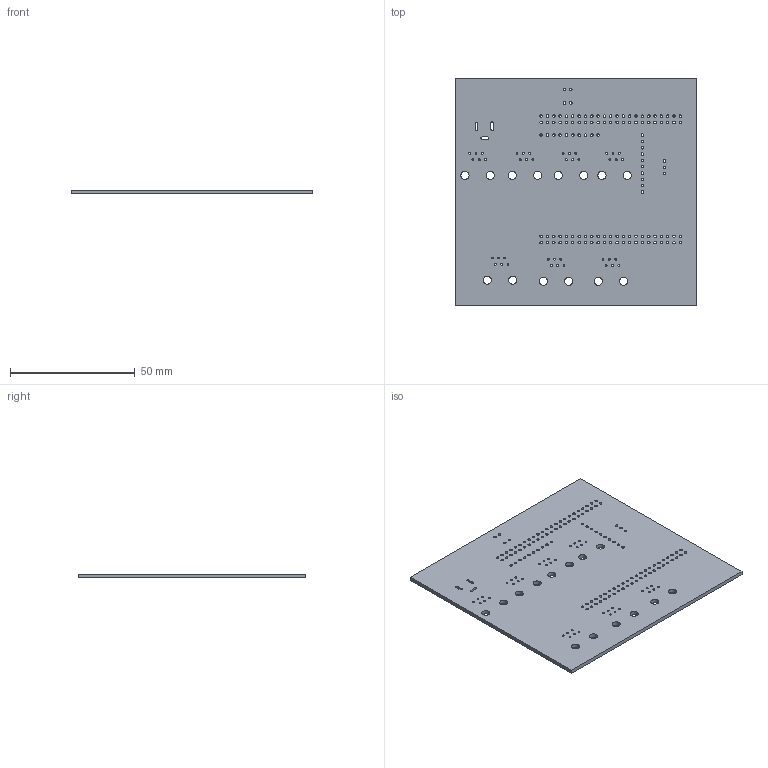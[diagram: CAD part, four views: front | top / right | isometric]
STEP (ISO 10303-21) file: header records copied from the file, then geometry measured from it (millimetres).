
FILE_DESCRIPTION(('KiCad electronic assembly'),'2;1');
FILE_NAME('Bela_HAT_PCB.step','2022-03-03T12:07:03',('Pcbnew'),('Kicad') ,'Open CASCADE STEP processor 7.5','KiCad to STEP converter','Unknown' );
FILE_SCHEMA(('AUTOMOTIVE_DESIGN { 1 0 10303 214 1 1 1 1 }'));
Length unit declared in the file: millimetre
Products named in the file (2): Bela_HAT_PCB 1; Bela_HAT_PCB PCB
Assembly tree (1 placements, depth 2):
  Bela_HAT_PCB 1
    Bela_HAT_PCB PCB
Bounding box: 97 x 91.5 x 1.6 mm (x, y, z)
Volume: 13820 mm3; surface area: 18903 mm2
Topology: 1 solids, 1 shells, 193 faces, 573 edges, 382 vertices
Faces by surface type: cylinder 181, plane 12
Full cylindrical faces by diameter (mm): 0.76 x42, 1 x119, 3.25 x14
Entity records: 15983 total; most frequent: CARTESIAN_POINT 4468, DIRECTION 2109, ORIENTED_EDGE 1146, PCURVE 1146, DEFINITIONAL_REPRESENTATION 1146, LINE 995, VECTOR 995, EDGE_CURVE 573
